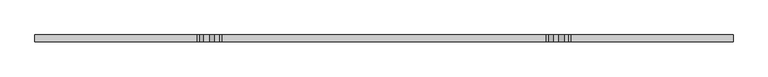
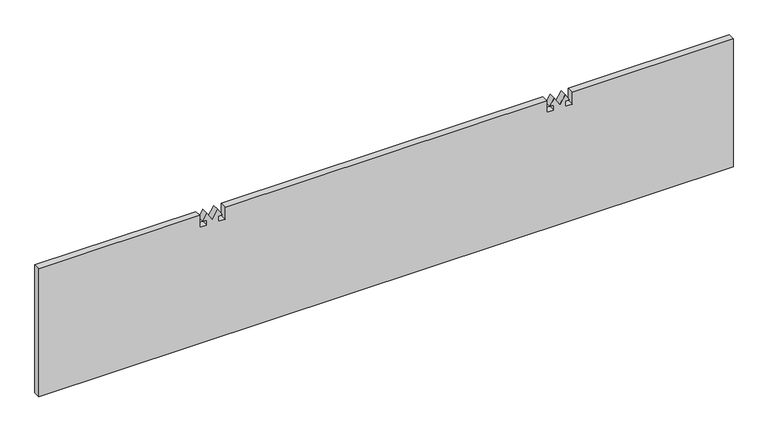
"""IFC4 building model written with IfcOpenShell, lengths in millimetres: proxy geometry, instalación_stratus 5.3dm."""

from ifc_helpers import new_model, si_unit, frame, origin, place, context, project, spatial, polyline, outline, extrude, source, transform, mapped, element, save


def generic_models_0a0765c0(model_context):
    return source(origin(), model_context, "Body", "SweptSolid", [
        extrude(outline(polyline([(-42.5638653, 291.811158), (-42.5638653, 279.553481), (-20.65, 279.553481), (-20.65, 0.0), (-255.6, 0.0), (-255.6, 1206.5), (-20.65, 1206.5), (-20.65, 926.946519), (-42.5638653, 926.946519), (-42.5638653, 914.688842), (-33.2622966, 914.688842), (-33.2622966, 922.0592541), (-20.65, 914.42236), (-36.4174225, 904.875), (-20.65, 895.32764), (-33.2622966, 887.6907459), (-33.2622966, 895.061158), (-42.5638653, 895.061158), (-42.5638653, 882.803481), (-20.65, 882.803481), (-20.65, 323.696519), (-42.5638653, 323.696519), (-42.5638653, 311.438842), (-33.2622966, 311.438842), (-33.2622966, 318.8092541), (-20.65, 311.17236), (-36.4174225, 301.625), (-20.65, 292.07764), (-33.2622966, 284.4407459), (-33.2622966, 291.811158), (-42.5638653, 291.811158)])), frame((0.0, 567.5110804, 0.0), z_axis=(0.0, 1.0, 0.0), x_axis=(0.0, 0.0, 1.0)), (0.0, 0.0, 1.0), 12.0),
    ])


if __name__ == "__main__":
    model = new_model("IFC4")
    model_context = context("Model", 3, world=origin())
    ifc_project = project(units=[si_unit("LENGTHUNIT", "METRE", prefix="MILLI")], contexts=[model_context])
    site = spatial("IfcSite", under=ifc_project)
    building = spatial("IfcBuilding", under=site)
    placement = place(None, origin())
    generic_models_shape = generic_models_0a0765c0(model_context)
    element("IfcBuildingElementProxy", 1, Name="instalación_stratus 5.3dm", ObjectType="instalación_stratus 5.3dm", at=placement, inside=building, context=model_context, shape_type="MappedRepresentation", body=[
        mapped(generic_models_shape, transform((0.0, 0.0, 0.0), x_axis=(1.0, 0.0, 0.0), y_axis=(0.0, 1.0, 0.0), z_axis=(0.0, 0.0, 1.0))),
    ])
    save(model, "model.ifc")
